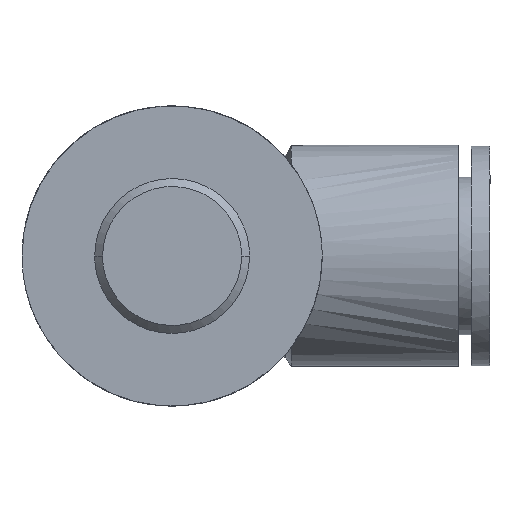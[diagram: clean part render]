
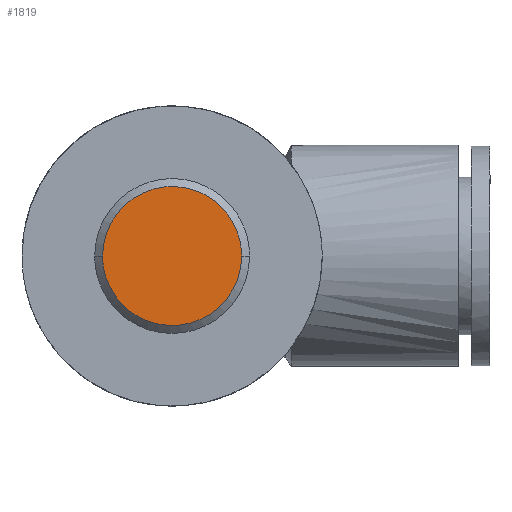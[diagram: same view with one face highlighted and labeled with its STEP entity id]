
A CAD part, front view. The second image highlights one B-rep face of the part: STEP entity #1819.
In plain terms, the highlighted planar face has unit normal (0, -1, 0).
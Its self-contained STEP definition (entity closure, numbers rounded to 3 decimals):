
#248 = CARTESIAN_POINT ( 'NONE',  ( -7.565, -7.5, -7.565 ) ) ;
#324 = AXIS2_PLACEMENT_3D ( 'NONE', #248, #903, #575 ) ;
#362 = CARTESIAN_POINT ( 'NONE',  ( 7.475, -7.5, 0. ) ) ;
#404 = EDGE_CURVE ( 'NONE', #870, #863, #1670, .T. ) ;
#406 = FACE_OUTER_BOUND ( 'NONE', #1656, .T. ) ;
#575 = DIRECTION ( 'NONE',  ( 1., 0., 0. ) ) ;
#585 = CARTESIAN_POINT ( 'NONE',  ( 7.475, -7.5, 14.95 ) ) ;
#624 = CARTESIAN_POINT ( 'NONE',  ( -7.475, -7.5, -14.95 ) ) ;
#863 = VERTEX_POINT ( 'NONE', #1876 ) ;
#870 = VERTEX_POINT ( 'NONE', #362 ) ;
#903 = DIRECTION ( 'NONE',  ( 0., -1., 0. ) ) ;
#971 = EDGE_CURVE ( 'NONE', #863, #870, #1461, .T. ) ;
#1063 = PLANE ( 'NONE',  #324 ) ;
#1118 = CARTESIAN_POINT ( 'NONE',  ( -7.475, -7.5, 0. ) ) ;
#1234 = CARTESIAN_POINT ( 'NONE',  ( -7.475, -7.5, 14.95 ) ) ;
#1409 = CARTESIAN_POINT ( 'NONE',  ( -7.475, -7.5, 0. ) ) ;
#1424 = CARTESIAN_POINT ( 'NONE',  ( 7.475, -7.5, -14.95 ) ) ;
#1461 =( BOUNDED_CURVE ( )  B_SPLINE_CURVE ( 3, ( #1409, #1234, #585, #1764 ),
 .UNSPECIFIED., .F., .T. ) 
 B_SPLINE_CURVE_WITH_KNOTS ( ( 4, 4 ),
 ( 0., 0.5 ),
 .UNSPECIFIED. ) 
 CURVE ( )  GEOMETRIC_REPRESENTATION_ITEM ( )  RATIONAL_B_SPLINE_CURVE ( ( 1., 0.333, 0.333, 1. ) ) 
 REPRESENTATION_ITEM ( '' )  );
#1656 = EDGE_LOOP ( 'NONE', ( #2066, #2075 ) ) ;
#1670 =( BOUNDED_CURVE ( )  B_SPLINE_CURVE ( 3, ( #2083, #1424, #624, #1118 ),
 .UNSPECIFIED., .F., .T. ) 
 B_SPLINE_CURVE_WITH_KNOTS ( ( 4, 4 ),
 ( 0.5, 1. ),
 .UNSPECIFIED. ) 
 CURVE ( )  GEOMETRIC_REPRESENTATION_ITEM ( )  RATIONAL_B_SPLINE_CURVE ( ( 1., 0.333, 0.333, 1. ) ) 
 REPRESENTATION_ITEM ( '' )  );
#1764 = CARTESIAN_POINT ( 'NONE',  ( 7.475, -7.5, 0. ) ) ;
#1819 = ADVANCED_FACE ( 'NONE', ( #406 ), #1063, .T. ) ;
#1876 = CARTESIAN_POINT ( 'NONE',  ( -7.475, -7.5, 0. ) ) ;
#2066 = ORIENTED_EDGE ( 'NONE', *, *, #971, .F. ) ;
#2075 = ORIENTED_EDGE ( 'NONE', *, *, #404, .F. ) ;
#2083 = CARTESIAN_POINT ( 'NONE',  ( 7.475, -7.5, 0. ) ) ;
